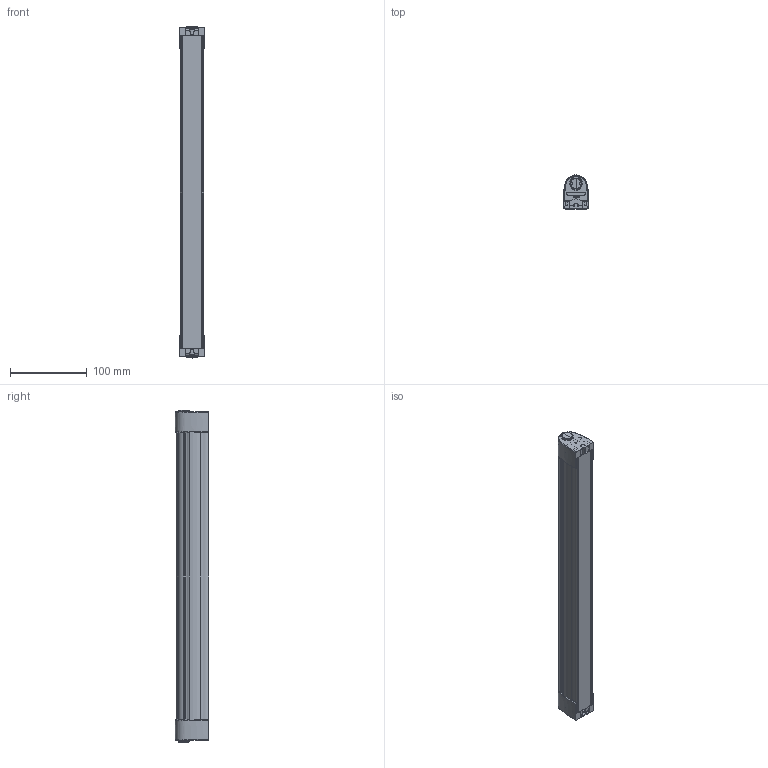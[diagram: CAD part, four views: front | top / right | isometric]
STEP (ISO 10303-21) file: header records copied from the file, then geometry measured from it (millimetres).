
FILE_DESCRIPTION (( 'STEP AP214' ), '1' );
FILE_NAME ('XL-CP42A_for_Homepage.STEP', '2021-04-27T08:28:46', ( '' ), ( '' ), 'SwSTEP 2.0', 'SolidWorks 2017', '' );
FILE_SCHEMA (( 'AUTOMOTIVE_DESIGN' ));
Length unit declared in the file: millimetre
Products named in the file (2): XL-CP42A_for_Homepage
Bounding box: 33.5 x 43.65 x 431.5 mm (x, y, z)
Volume: 280277.9 mm3; surface area: 155927.3 mm2
Topology: 11 solids, 11 shells, 1290 faces, 3369 edges, 2148 vertices
Faces by surface type: cylinder 542, plane 477, bspline 172, torus 62, cone 21, sphere 16
Entity records: 63594 total; most frequent: CARTESIAN_POINT 18618, ORIENTED_EDGE 6730, DIRECTION 6128, EDGE_CURVE 3365, AXIS2_PLACEMENT_3D 2240, VERTEX_POINT 2148, VECTOR 1648, LINE 1648
